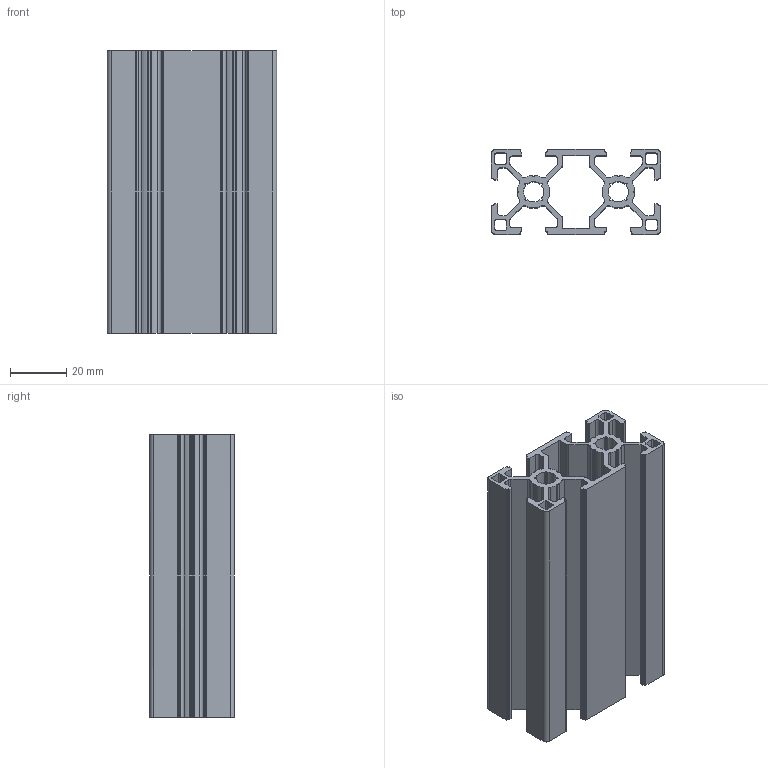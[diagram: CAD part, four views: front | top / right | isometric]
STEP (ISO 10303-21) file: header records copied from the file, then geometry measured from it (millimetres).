
FILE_DESCRIPTION (( 'STEP AP203' ), '1' );
FILE_NAME ('30x60 Sigma Profil.STEP', '2022-01-12T19:44:32', ( '' ), ( '' ), 'SwSTEP 2.0', 'SolidWorks 2018', '' );
FILE_SCHEMA (( 'CONFIG_CONTROL_DESIGN' ));
Length unit declared in the file: millimetre
Products named in the file (1): 30x60 Sigma Profil
Bounding box: 60 x 30 x 100 mm (x, y, z)
Volume: 51740.3 mm3; surface area: 55963.1 mm2
Topology: 1 solids, 1 shells, 334 faces, 996 edges, 664 vertices
Faces by surface type: bspline 334
Entity records: 11594 total; most frequent: CARTESIAN_POINT 5919, ORIENTED_EDGE 1992, EDGE_CURVE 996, B_SPLINE_CURVE_WITH_KNOTS 783, VERTEX_POINT 664, EDGE_LOOP 348, ADVANCED_FACE 334, FACE_OUTER_BOUND 334
